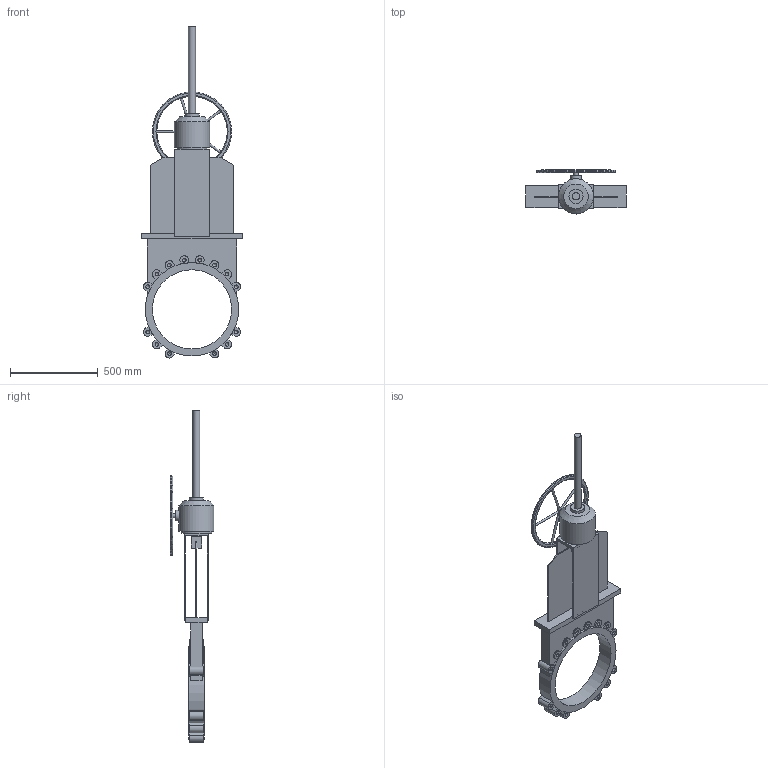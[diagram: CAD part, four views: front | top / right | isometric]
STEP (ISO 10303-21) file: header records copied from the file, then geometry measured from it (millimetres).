
FILE_DESCRIPTION(('STEP AP203'), '1');
FILE_NAME('Çàäâèæêà øèáåðíàÿ K51GV DN450 ðåäóêòîð+âûäâèæíîé øïèíäåëü', '', ('UNSPECIFIED'), ('UNSPECIFIED'), 'ASCON STEP Converter 1.6', 'ASCON Math Kernel', '');
FILE_SCHEMA(('CONFIG_CONTROL_DESIGN'));
Length unit declared in the file: millimetre
Bounding box: 570 x 250 x 1886.68 mm (x, y, z)
Volume: 24400004.4 mm3; surface area: 2040349.4 mm2
Topology: 1 solids, 1 shells, 230 faces, 626 edges, 401 vertices
Faces by surface type: plane 124, cylinder 69, cone 29, torus 8
Full cylindrical faces by diameter (mm): 12 x5, 20.752 x28, 24 x1, 40 x2, 60 x1, 80 x1, 175 x1, 200 x1, 450 x2, 530 x1
Entity records: 10881 total; most frequent: CARTESIAN_POINT 3616, DIRECTION 1132, ORIENTED_EDGE 1038, EDGE_CURVE 519, AXIS2_PLACEMENT_3D 425, VERTEX_POINT 371, EDGE_LOOP 325, LINE 282
